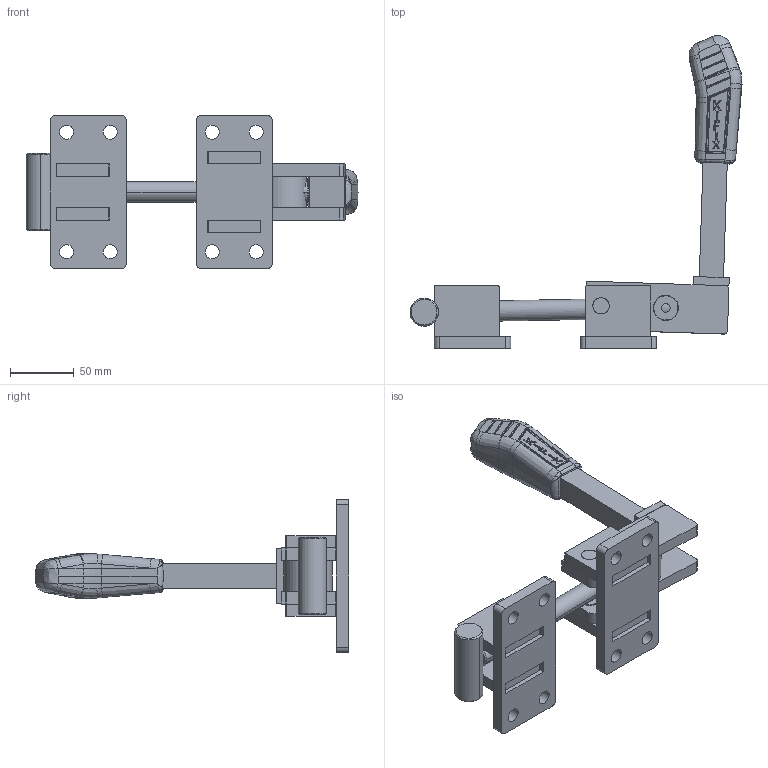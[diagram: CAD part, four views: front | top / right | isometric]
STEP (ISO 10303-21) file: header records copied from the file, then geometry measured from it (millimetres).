
FILE_DESCRIPTION (( 'STEP AP203' ), '1' );
FILE_NAME ('KF-350.STEP', '2018-03-06T16:25:01', ( 'Ricardo' ), ( '' ), 'SwSTEP 2.0', 'SolidWorks 2018', '' );
FILE_SCHEMA (( 'CONFIG_CONTROL_DESIGN' ));
Length unit declared in the file: millimetre
Products named in the file (14): 08.10025; KF-350; 15.10022; 02.10075; 01.20010; 02.10015; 03.20012; 15.10023; 16.20022; 04.10007; 15.10020; 16.20023; 15.10021; 07.60202
Assembly tree (17 placements, depth 2):
  KF-350
    02.10075
    02.10015
    15.10020  x2
    15.10021  x2
    08.10025  x2
    15.10022
    01.20010
    03.20012
    15.10023
    16.20022
    04.10007
    16.20023  x2
    07.60202
Bounding box: 260.99 x 246.15 x 120 mm (x, y, z)
Volume: 501345.8 mm3; surface area: 147350.6 mm2
Topology: 17 solids, 17 shells, 733 faces, 1914 edges, 1222 vertices
Faces by surface type: bspline 271, plane 240, cylinder 137, sphere 52, cone 30, torus 3
Entity records: 29398 total; most frequent: CARTESIAN_POINT 13864, ORIENTED_EDGE 3478, DIRECTION 2051, EDGE_CURVE 1739, VERTEX_POINT 1112, B_SPLINE_CURVE_WITH_KNOTS 853, AXIS2_PLACEMENT_3D 771, EDGE_LOOP 727
